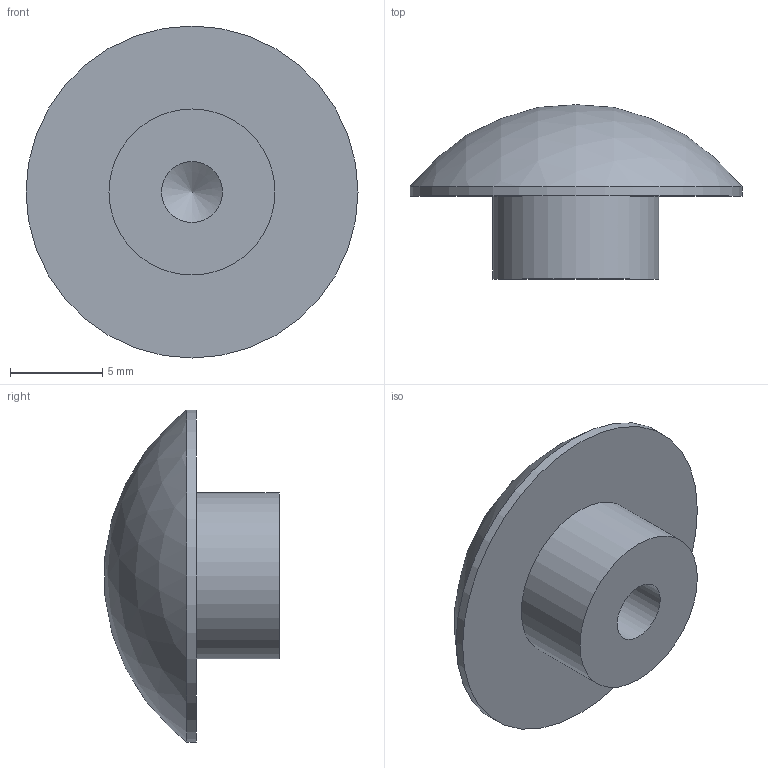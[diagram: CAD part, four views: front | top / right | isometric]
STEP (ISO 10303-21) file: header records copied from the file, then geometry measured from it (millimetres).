
FILE_DESCRIPTION (( 'STEP AP214' ), '1' );
FILE_NAME ('N90207.step', '2024-12-03T16:27:58', ( '' ), ( '' ), 'SwSTEP 2.0', 'SolidWorks 2023', '' );
FILE_SCHEMA (( 'AUTOMOTIVE_DESIGN' ));
Length unit declared in the file: millimetre
Products named in the file (1): N90207
Bounding box: 18 x 9.45 x 18 mm (x, y, z)
Volume: 962.5 mm3; surface area: 812.4 mm2
Topology: 1 solids, 1 shells, 7 faces, 11 edges, 7 vertices
Faces by surface type: cylinder 3, plane 2, sphere 1, cone 1
Full cylindrical faces by diameter (mm): 3.3 x1, 9 x1, 18 x1
Entity records: 157 total; most frequent: DIRECTION 28, CARTESIAN_POINT 20, AXIS2_PLACEMENT_3D 14, EDGE_LOOP 12, ORIENTED_EDGE 12, FACE_OUTER_BOUND 10, ADVANCED_FACE 7, CIRCLE 6
